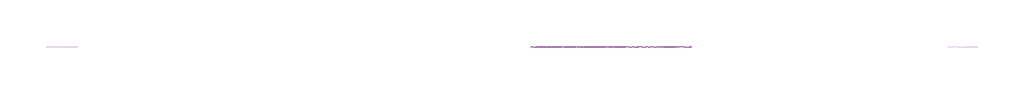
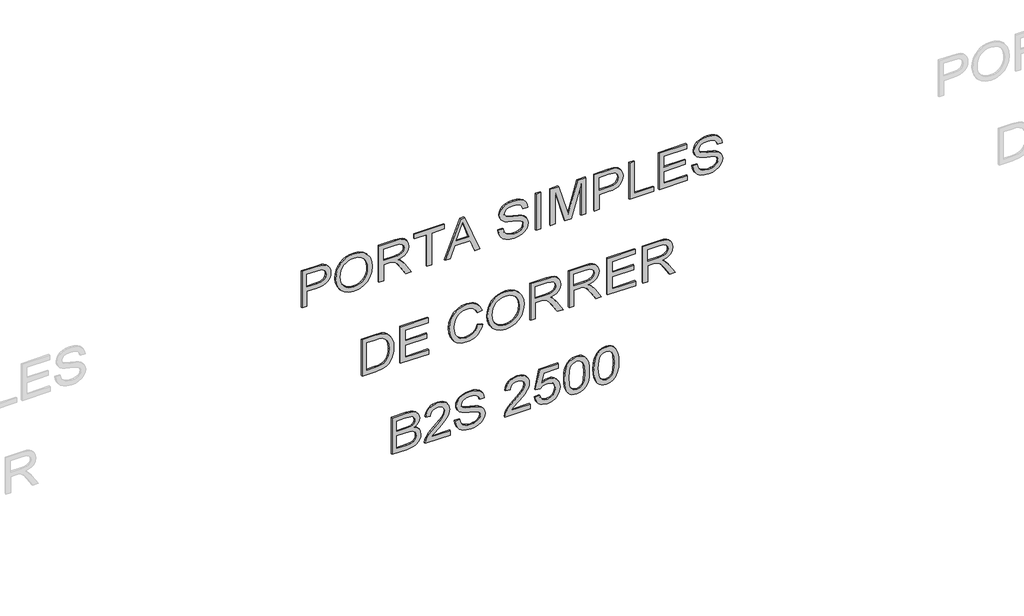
# One storey, part 12 of 13: 1 proxy.
"""IFC4 building model written with IfcOpenShell, lengths in millimetres."""

from ifc_helpers import new_model, si_unit, frame, origin, place, context, project, spatial, polyline, outline, extrude, element, save

model = new_model("IFC4")

# Units and contexts
model_context = context("Model", 3, world=origin())
ifc_project = project(units=[si_unit("LENGTHUNIT", "METRE", prefix="MILLI")], contexts=[model_context])

# Site, building, storey
site = spatial("IfcSite", under=ifc_project)
building = spatial("IfcBuilding", under=site)
storey = spatial("IfcBuildingStorey", under=building, Name="02 - Marelli - Planta Baixa - Portas", Elevation=-12000.0)

# Proxy
placement = place(None, origin())
element("IfcBuildingElementProxy", 1, Name="300mm Arial", ObjectType="300mm Arial", at=placement, inside=storey, context=model_context, shape_type="SweptSolid", body=[
    extrude(outline(polyline([(-5683.1381416, 62229.2612813), (-5683.1381416, 62266.9323976), (-5560.7070137, 62266.9323976), (-5560.7070137, 62343.525429), (-5559.0423476, 62372.7237631), (-5554.0483495, 62397.0430622), (-5545.7250194, 62416.4833264), (-5534.0723572, 62431.0445557), (-5520.0146665, 62441.6510534), (-5504.4762507, 62449.2271233), (-5487.4571099, 62453.7727652), (-5468.9572441, 62455.2879791), (-5447.5005267, 62453.043899), (-5427.8648252, 62446.3116585), (-5411.2181649, 62435.8914009), (-5398.7285712, 62422.5832698), (-5390.0005708, 62406.0561711), (-5384.6386908, 62385.9790112), (-5381.7692112, 62340.950255), (-5381.7692112, 62229.2612813), (-5683.1381416, 62229.2612813)]), holes=[polyline([(-5523.0358973, 62266.9323976), (-5419.4403275, 62266.9323976), (-5419.4403275, 62344.8498042), (-5422.0155015, 62382.5209205), (-5428.3430718, 62396.7487567), (-5439.085226, 62407.9415664), (-5453.3590475, 62415.1980387), (-5470.2816192, 62417.6168628), (-5492.556874, 62413.5149786), (-5509.2035343, 62401.2093258), (-5519.5778066, 62379.1364061), (-5523.0358973, 62345.732721), (-5523.0358973, 62266.9323976)])]), frame((0.0, 8778.3159498, 0.0), z_axis=(0.0, 1.0, 0.0), x_axis=(0.0, 0.0, 1.0)), (0.0, 0.0, 1.0), 10.0),
    extrude(outline(polyline([(-5536.426802, 62492.9590954), (-5574.971638, 62497.2633148), (-5611.4379408, 62510.1759728), (-5643.1309747, 62531.4395521), (-5667.3560041, 62560.7965354), (-5682.7242744, 62596.4443007), (-5687.8470312, 62636.5802264), (-5683.211718, 62674.3892984), (-5669.3057786, 62709.531226), (-5646.3867303, 62739.4952145), (-5614.7120905, 62761.7704693), (-5576.2500279, 62775.5936353), (-5532.9687112, 62780.2013573), (-5490.2576116, 62775.8235615), (-5452.3289779, 62762.6901743), (-5420.7095204, 62741.2058658), (-5396.9259494, 62711.7753062), (-5382.0267286, 62676.3298759), (-5377.0603217, 62636.8009556), (-5379.7044735, 62606.5104718), (-5387.636929, 62579.1354528), (-5400.8576882, 62554.6758987), (-5419.3667511, 62533.1318093), (-5442.5479153, 62515.556247), (-5469.7849785, 62503.0022739), (-5501.0779408, 62495.4698901), (-5536.426802, 62492.9590954)]), holes=[polyline([(-5536.794684, 62530.6302117), (-5506.2581791, 62532.5937819), (-5480.4259653, 62538.4844923), (-5459.2980424, 62548.3023431), (-5442.8744106, 62562.0473341), (-5430.5618601, 62578.5146519), (-5421.7671811, 62596.499483), (-5416.4903738, 62616.0018273), (-5414.731438, 62637.0216848), (-5418.3826668, 62666.1855299), (-5429.3363532, 62692.3143486), (-5446.9303096, 62713.9734011), (-5470.5023484, 62729.7279475), (-5499.3259028, 62739.3296676), (-5532.6744056, 62742.530241), (-5559.212493, 62740.6609406), (-5582.5408101, 62735.0530394), (-5602.6593567, 62725.7065375), (-5619.5681329, 62712.6214348), (-5632.9590375, 62696.6392613), (-5642.5239694, 62678.6015473), (-5648.2629285, 62658.5082925), (-5650.1759149, 62636.3594972), (-5648.2813226, 62614.5831823), (-5642.5975458, 62594.7244524), (-5633.1245844, 62576.7833073), (-5619.8624385, 62560.7597472), (-5603.3031502, 62547.5780754), (-5583.9387616, 62538.1625956), (-5561.7692729, 62532.5133077), (-5536.794684, 62530.6302117)])]), frame((0.0, 8778.3159498, 0.0), z_axis=(0.0, 1.0, 0.0), x_axis=(0.0, 0.0, 1.0)), (0.0, 0.0, 1.0), 10.0),
    extrude(outline(polyline([(-5683.1381416, 62831.9991422), (-5683.1381416, 62869.6702585), (-5551.2892346, 62869.6702585), (-5551.2892346, 62915.1404731), (-5552.6136098, 62936.9926636), (-5559.7873087, 62954.9085168), (-5579.3218426, 62974.8109327), (-5620.6717789, 63003.1378464), (-5683.1381416, 63042.354067), (-5683.1381416, 63086.1320245), (-5601.4683387, 63035.8793439), (-5562.6935764, 63005.3451383), (-5546.580345, 62983.9344062), (-5536.5923489, 63021.0445025), (-5528.5771199, 63035.4263892), (-5518.547737, 63047.0261684), (-5493.9364315, 63062.3392564), (-5464.2483545, 63067.4436191), (-5440.3820101, 63064.3626074), (-5418.6677753, 63055.1195723), (-5401.1565923, 63040.7169922), (-5389.8994033, 63022.1573455), (-5383.8017592, 62996.7642908), (-5381.7692112, 62961.8614865), (-5381.7692112, 62831.9991422), (-5683.1381416, 62831.9991422)]), holes=[polyline([(-5513.6181183, 62869.6702585), (-5419.4403275, 62869.6702585), (-5419.4403275, 62963.4801673), (-5422.6960832, 62993.2878059), (-5432.4633501, 63013.8432124), (-5447.2706004, 63025.7901802), (-5465.6463061, 63029.7725028), (-5478.9544373, 63027.6847725), (-5491.2141048, 63021.4215815), (-5501.3492537, 63011.1392797), (-5508.2838293, 62996.994217), (-5512.284546, 62978.2046441), (-5513.6181183, 62953.9888118), (-5513.6181183, 62869.6702585)])]), frame((0.0, 8778.3159498, 0.0), z_axis=(0.0, 1.0, 0.0), x_axis=(0.0, 0.0, 1.0)), (0.0, 0.0, 1.0), 10.0),
    extrude(outline(polyline([(-5683.1381416, 63208.7103053), (-5683.1381416, 63246.3814216), (-5419.4403275, 63246.3814216), (-5419.4403275, 63345.2681019), (-5381.7692112, 63345.2681019), (-5381.7692112, 63109.823625), (-5419.4403275, 63109.823625), (-5419.4403275, 63208.7103053), (-5683.1381416, 63208.7103053)])), frame((0.0, 8778.3159498, 0.0), z_axis=(0.0, 1.0, 0.0), x_axis=(0.0, 0.0, 1.0)), (0.0, 0.0, 1.0), 10.0),
    extrude(outline(polyline([(-5683.1381416, 63352.5521654), (-5683.1381416, 63392.3569973), (-5588.9603509, 63426.790752), (-5588.9603509, 63550.9141372), (-5683.1381416, 63585.4214683), (-5683.1381416, 63625.2263002), (-5381.7692112, 63504.9288878), (-5381.7692112, 63472.8495778), (-5683.1381416, 63352.5521654)]), holes=[polyline([(-5551.2892346, 63440.623115), (-5470.7230776, 63470.127251), (-5419.4403275, 63488.8892328), (-5477.1978007, 63510.0056593), (-5551.2892346, 63537.1553506), (-5551.2892346, 63440.623115)])]), frame((0.0, 8778.3159498, 0.0), z_axis=(0.0, 1.0, 0.0), x_axis=(0.0, 0.0, 1.0)), (0.0, 0.0, 1.0), 10.0),
    extrude(outline(polyline([(-5579.5425718, 63769.0681603), (-5609.9664128, 63773.5379266), (-5637.0793159, 63785.3285445), (-5659.3361766, 63803.6950531), (-5675.1918906, 63827.8924913), (-5684.683246, 63858.2703471), (-5687.8470312, 63895.1781083), (-5684.9131723, 63925.2432643), (-5676.1115955, 63952.1630293), (-5662.0217151, 63974.5486487), (-5643.2229452, 63991.011368), (-5621.3799517, 64001.1373199), (-5598.1574008, 64004.5126372), (-5575.4406876, 64001.5787783), (-5555.5566657, 63992.7772016), (-5538.6892762, 63977.7952073), (-5525.0224601, 63956.3200959), (-5516.2116863, 63931.1937556), (-5506.1133256, 63889.6598783), (-5495.4815359, 63849.4135881), (-5485.0704754, 63828.1500087), (-5473.4270103, 63819.155294), (-5458.9508538, 63816.1570557), (-5441.9730997, 63820.3876986), (-5427.6808842, 63833.0796275), (-5417.9687995, 63855.0237885), (-5414.731438, 63887.011128), (-5418.0055877, 63918.2627035), (-5427.828037, 63940.7954757), (-5444.051633, 63955.2164499), (-5466.5292229, 63962.1326314), (-5466.5292229, 63999.8037477), (-5441.5684295, 63995.5547106), (-5419.3667511, 63984.8677387), (-5401.0646218, 63967.9819551), (-5387.8024759, 63945.1364832), (-5379.7458602, 63917.3246044), (-5377.0603217, 63885.5396), (-5379.6262986, 63856.2010109), (-5387.3242293, 63829.6951131), (-5399.97937, 63807.6129964), (-5417.4169765, 63791.5457502), (-5437.9907771, 63781.7508921), (-5460.0544998, 63778.4859394), (-5479.7913688, 63781.1254927), (-5497.5048869, 63789.0441526), (-5512.8639602, 63802.3338897), (-5525.5374949, 63821.0866744), (-5534.596589, 63844.1252844), (-5544.1155357, 63880.1317347), (-5558.4997217, 63934.9829401), (-5566.308017, 63951.0593833), (-5575.6062345, 63960.587527), (-5586.5047386, 63965.2780224), (-5599.1138939, 63966.8415209), (-5612.0541431, 63964.7537906), (-5624.387387, 63958.4905996), (-5635.1295413, 63947.9599775), (-5643.2965216, 63933.0699538), (-5648.4560666, 63914.6942481), (-5650.1759149, 63893.7065803), (-5647.9042436, 63869.867827), (-5641.0892296, 63848.5306713), (-5630.5861986, 63831.0746706), (-5617.2504763, 63818.8793825), (-5600.4474662, 63811.0618901), (-5579.5425718, 63806.7392766), (-5579.5425718, 63769.0681603)])), frame((0.0, 8778.3159498, 0.0), z_axis=(0.0, 1.0, 0.0), x_axis=(0.0, 0.0, 1.0)), (0.0, 0.0, 1.0), 10.0),
    extrude(outline(polyline([(64103.3993175, 8778.3159498), (64065.7282012, 8778.3159498), (64065.7282012, 8788.3159498), (64103.3993175, 8788.3159498), (64103.3993175, 8778.3159498)])), frame((0.0, 0.0, -5683.1381416), z_axis=(0.0, 0.0, 1.0), x_axis=(1.0, 0.0, 0.0)), (0.0, 0.0, 1.0), 301.3689304),
    extrude(outline(polyline([(-5683.1381416, 64178.7415501), (-5683.1381416, 64216.4126664), (-5419.4403275, 64216.4126664), (-5683.1381416, 64292.1227811), (-5683.1381416, 64343.184802), (-5419.4403275, 64418.8949166), (-5683.1381416, 64418.8949166), (-5683.1381416, 64456.5660329), (-5381.7692112, 64456.5660329), (-5381.7692112, 64391.7452253), (-5590.5054553, 64331.1182725), (-5638.5508438, 64317.6537915), (-5594.1842752, 64305.2193801), (-5381.7692112, 64243.5623577), (-5381.7692112, 64178.7415501), (-5683.1381416, 64178.7415501)])), frame((0.0, 8778.3159498, 0.0), z_axis=(0.0, 1.0, 0.0), x_axis=(0.0, 0.0, 1.0)), (0.0, 0.0, 1.0), 10.0),
    extrude(outline(polyline([(-5683.1381416, 64522.4904864), (-5683.1381416, 64560.1616027), (-5560.7070137, 64560.1616027), (-5560.7070137, 64636.7546341), (-5559.0423476, 64665.9529682), (-5554.0483495, 64690.2722674), (-5545.7250194, 64709.7125316), (-5534.0723572, 64724.2737608), (-5520.0146665, 64734.8802586), (-5504.4762507, 64742.4563284), (-5487.4571099, 64747.0019703), (-5468.9572441, 64748.5171843), (-5447.5005267, 64746.2731041), (-5427.8648252, 64739.5408636), (-5411.2181649, 64729.1206061), (-5398.7285712, 64715.8124749), (-5390.0005708, 64699.2853763), (-5384.6386908, 64679.2082164), (-5381.7692112, 64634.1794602), (-5381.7692112, 64522.4904864), (-5683.1381416, 64522.4904864)]), holes=[polyline([(-5523.0358973, 64560.1616027), (-5419.4403275, 64560.1616027), (-5419.4403275, 64638.0790093), (-5422.0155015, 64675.7501256), (-5428.3430718, 64689.9779618), (-5439.085226, 64701.1707715), (-5453.3590475, 64708.4272438), (-5470.2816192, 64710.846068), (-5492.556874, 64706.7441837), (-5509.2035343, 64694.438531), (-5519.5778066, 64672.3656113), (-5523.0358973, 64638.9619261), (-5523.0358973, 64560.1616027)])]), frame((0.0, 8778.3159498, 0.0), z_axis=(0.0, 1.0, 0.0), x_axis=(0.0, 0.0, 1.0)), (0.0, 0.0, 1.0), 10.0),
    extrude(outline(polyline([(-5683.1381416, 64800.3149692), (-5683.1381416, 64988.6705507), (-5645.4670253, 64988.6705507), (-5645.4670253, 64837.9860855), (-5381.7692112, 64837.9860855), (-5381.7692112, 64800.3149692), (-5683.1381416, 64800.3149692)])), frame((0.0, 8778.3159498, 0.0), z_axis=(0.0, 1.0, 0.0), x_axis=(0.0, 0.0, 1.0)), (0.0, 0.0, 1.0), 10.0),
    extrude(outline(polyline([(-5683.1381416, 65031.0505566), (-5683.1381416, 65252.3683649), (-5645.4670253, 65252.3683649), (-5645.4670253, 65068.7216729), (-5546.580345, 65068.7216729), (-5546.580345, 65238.2416962), (-5508.9092287, 65238.2416962), (-5508.9092287, 65068.7216729), (-5419.4403275, 65068.7216729), (-5419.4403275, 65247.6594753), (-5381.7692112, 65247.6594753), (-5381.7692112, 65031.0505566), (-5683.1381416, 65031.0505566)])), frame((0.0, 8778.3159498, 0.0), z_axis=(0.0, 1.0, 0.0), x_axis=(0.0, 0.0, 1.0)), (0.0, 0.0, 1.0), 10.0),
    extrude(outline(polyline([(-5579.5425718, 65294.7483707), (-5609.9664128, 65299.2181369), (-5637.0793159, 65311.0087549), (-5659.3361766, 65329.3752635), (-5675.1918906, 65353.5727017), (-5684.683246, 65383.9505575), (-5687.8470312, 65420.8583187), (-5684.9131723, 65450.9234747), (-5676.1115955, 65477.8432397), (-5662.0217151, 65500.2288591), (-5643.2229452, 65516.6915784), (-5621.3799517, 65526.8175303), (-5598.1574008, 65530.1928476), (-5575.4406876, 65527.2589887), (-5555.5566657, 65518.457412), (-5538.6892762, 65503.4754177), (-5525.0224601, 65482.0003063), (-5516.2116863, 65456.873966), (-5506.1133256, 65415.3400887), (-5495.4815359, 65375.0937985), (-5485.0704754, 65353.8302191), (-5473.4270103, 65344.8355044), (-5458.9508538, 65341.8372661), (-5441.9730997, 65346.067909), (-5427.6808842, 65358.7598379), (-5417.9687995, 65380.7039989), (-5414.731438, 65412.6913384), (-5418.0055877, 65443.9429139), (-5427.828037, 65466.4756861), (-5444.051633, 65480.8966603), (-5466.5292229, 65487.8128418), (-5466.5292229, 65525.4839581), (-5441.5684295, 65521.234921), (-5419.3667511, 65510.5479491), (-5401.0646218, 65493.6621655), (-5387.8024759, 65470.8166936), (-5379.7458602, 65443.0048148), (-5377.0603217, 65411.2198104), (-5379.6262986, 65381.8812213), (-5387.3242293, 65355.3753235), (-5399.97937, 65333.2932068), (-5417.4169765, 65317.2259606), (-5437.9907771, 65307.4311025), (-5460.0544998, 65304.1661498), (-5479.7913688, 65306.8057031), (-5497.5048869, 65314.724363), (-5512.8639602, 65328.0141001), (-5525.5374949, 65346.7668848), (-5534.596589, 65369.8054948), (-5544.1155357, 65405.8119451), (-5558.4997217, 65460.6631505), (-5566.308017, 65476.7395937), (-5575.6062345, 65486.2677374), (-5586.5047386, 65490.9582328), (-5599.1138939, 65492.5217313), (-5612.0541431, 65490.434001), (-5624.387387, 65484.17081), (-5635.1295413, 65473.6401879), (-5643.2965216, 65458.7501642), (-5648.4560666, 65440.3744585), (-5650.1759149, 65419.3867907), (-5647.9042436, 65395.5480374), (-5641.0892296, 65374.2108817), (-5630.5861986, 65356.754881), (-5617.2504763, 65344.5595929), (-5600.4474662, 65336.7421005), (-5579.5425718, 65332.419487), (-5579.5425718, 65294.7483707)])), frame((0.0, 8778.3159498, 0.0), z_axis=(0.0, 1.0, 0.0), x_axis=(0.0, 0.0, 1.0)), (0.0, 0.0, 1.0), 10.0),
    extrude(outline(polyline([(-6414.9870487, 62700.1502351), (-6414.9870487, 62809.1168821), (-6409.8367008, 62857.5669409), (-6403.4815393, 62877.1106719), (-6394.7167508, 62893.5825882), (-6382.8985417, 62907.929986), (-6367.3831185, 62921.1001614), (-6347.729023, 62932.5412915), (-6323.4947965, 62941.7015532), (-6295.0299271, 62947.7164238), (-6262.6839027, 62949.7213807), (-6224.6081162, 62946.7599306), (-6191.0204901, 62937.8755804), (-6162.4728472, 62923.0315419), (-6139.5170107, 62902.1910269), (-6126.3284412, 62881.9207289), (-6117.9591258, 62857.8980347), (-6113.6181183, 62804.113687), (-6113.6181183, 62700.1502351), (-6414.9870487, 62700.1502351)]), holes=[polyline([(-6377.3159324, 62737.8213514), (-6151.2892346, 62737.8213514), (-6151.2892346, 62803.4514994), (-6152.7975508, 62835.1997156), (-6157.3224993, 62856.8679651), (-6169.9040635, 62878.1591355), (-6190.7261845, 62895.9738212), (-6221.0396609, 62908.0311536), (-6262.0952915, 62912.0502643), (-6293.0801526, 62909.9993222), (-6319.0802126, 62903.8464959), (-6340.187442, 62894.0148495), (-6356.4938115, 62880.9274476), (-6365.3045853, 62868.7505535), (-6371.8712789, 62852.9684159), (-6375.954769, 62832.0543245), (-6377.3159324, 62804.481569), (-6377.3159324, 62737.8213514)])]), frame((0.0, 8778.3159498, 0.0), z_axis=(0.0, 1.0, 0.0), x_axis=(0.0, 0.0, 1.0)), (0.0, 0.0, 1.0), 10.0),
    extrude(outline(polyline([(-6414.9870487, 63001.5191656), (-6414.9870487, 63222.8369739), (-6377.3159324, 63222.8369739), (-6377.3159324, 63039.1902819), (-6278.4292521, 63039.1902819), (-6278.4292521, 63208.7103053), (-6240.7581358, 63208.7103053), (-6240.7581358, 63039.1902819), (-6151.2892346, 63039.1902819), (-6151.2892346, 63218.1280843), (-6113.6181183, 63218.1280843), (-6113.6181183, 63001.5191656), (-6414.9870487, 63001.5191656)])), frame((0.0, 8778.3159498, 0.0), z_axis=(0.0, 1.0, 0.0), x_axis=(0.0, 0.0, 1.0)), (0.0, 0.0, 1.0), 10.0),
    extrude(outline(polyline([(-6307.8598117, 63608.965916), (-6340.1230627, 63596.7798249), (-6363.3364166, 63576.9969706), (-6377.3527206, 63550.7945755), (-6382.024822, 63519.349862), (-6378.5943223, 63492.3749147), (-6368.3028235, 63467.3681361), (-6351.0767491, 63446.5092269), (-6326.8425227, 63431.9778881), (-6296.7497755, 63423.4522229), (-6261.9481387, 63420.6103345), (-6233.5292546, 63423.0107645), (-6205.9564991, 63430.2120546), (-6181.5659228, 63443.3362447), (-6162.6935764, 63463.5053751), (-6150.6086529, 63490.0848493), (-6146.580345, 63522.4400707), (-6150.2131797, 63550.509467), (-6161.1116838, 63573.3549389), (-6179.9564391, 63591.1972156), (-6207.428027, 63604.2570265), (-6198.4517064, 63641.9281428), (-6160.6334373, 63625.2906795), (-6145.3111522, 63613.4885653), (-6132.3801, 63599.3641959), (-6122.1115938, 63583.1842859), (-6114.7769466, 63565.2155497), (-6108.9092287, 63523.9115987), (-6113.4433743, 63486.0565414), (-6127.0458111, 63451.5124221), (-6149.3854453, 63422.3853651), (-6180.131183, 63400.7814949), (-6218.0782108, 63387.3997874), (-6262.0217151, 63382.9392182), (-6303.6843511, 63386.8847526), (-6342.5878721, 63398.7213558), (-6375.6788575, 63418.1087369), (-6399.9038869, 63444.7066052), (-6414.7479254, 63479.4070744), (-6419.6959383, 63523.1022583), (-6418.0611626, 63545.5246659), (-6413.1568358, 63566.1444518), (-6404.9829577, 63584.9616158), (-6393.5395284, 63601.9761581), (-6378.9828977, 63616.8523863), (-6361.4694155, 63629.254608), (-6340.9990817, 63639.1828234), (-6317.5718964, 63646.6370323), (-6307.8598117, 63608.965916)])), frame((0.0, 8778.3159498, 0.0), z_axis=(0.0, 1.0, 0.0), x_axis=(0.0, 0.0, 1.0)), (0.0, 0.0, 1.0), 10.0),
    extrude(outline(polyline([(-6268.275709, 63684.3081486), (-6306.8205451, 63688.612368), (-6343.2868479, 63701.525026), (-6374.9798817, 63722.7886053), (-6399.2049111, 63752.1455885), (-6414.5731815, 63787.7933539), (-6419.6959383, 63827.9292795), (-6415.0606251, 63865.7383516), (-6401.1546857, 63900.8802792), (-6378.2356374, 63930.8442677), (-6346.5609976, 63953.1195225), (-6308.098935, 63966.9426885), (-6264.8176183, 63971.5504105), (-6222.1065186, 63967.1726147), (-6184.1778849, 63954.0392275), (-6152.5584275, 63932.554919), (-6128.7748565, 63903.1243594), (-6113.8756357, 63867.6789291), (-6108.9092287, 63828.1500087), (-6111.5533806, 63797.859525), (-6119.4858361, 63770.484506), (-6132.7065953, 63746.0249518), (-6151.2156582, 63724.4808625), (-6174.3968224, 63706.9053002), (-6201.6338856, 63694.3513271), (-6232.9268478, 63686.8189432), (-6268.275709, 63684.3081486)]), holes=[polyline([(-6268.643591, 63721.9792649), (-6238.1070862, 63723.9428351), (-6212.2748723, 63729.8335455), (-6191.1469495, 63739.6513963), (-6174.7233177, 63753.3963873), (-6162.4107671, 63769.8637051), (-6153.6160882, 63787.8485362), (-6148.3392808, 63807.3508804), (-6146.580345, 63828.3707379), (-6150.2315738, 63857.5345831), (-6161.1852602, 63883.6634018), (-6178.7792167, 63905.3224543), (-6202.3512555, 63921.0770007), (-6231.1748098, 63930.6787208), (-6264.5233127, 63933.8792942), (-6291.0614001, 63932.0099938), (-6314.3897171, 63926.4020926), (-6334.5082637, 63917.0555907), (-6351.41704, 63903.9704879), (-6364.8079446, 63887.9883145), (-6374.3728765, 63869.9506004), (-6380.1118356, 63849.8573457), (-6382.024822, 63827.7085503), (-6380.1302297, 63805.9322355), (-6374.4464529, 63786.0735055), (-6364.9734915, 63768.1323605), (-6351.7113455, 63752.1088003), (-6335.1520572, 63738.9271286), (-6315.7876687, 63729.5116488), (-6293.61818, 63723.8623609), (-6268.643591, 63721.9792649)])]), frame((0.0, 8778.3159498, 0.0), z_axis=(0.0, 1.0, 0.0), x_axis=(0.0, 0.0, 1.0)), (0.0, 0.0, 1.0), 10.0),
    extrude(outline(polyline([(-6414.9870487, 64023.3481954), (-6414.9870487, 64061.0193117), (-6283.1381416, 64061.0193117), (-6283.1381416, 64106.4895263), (-6284.4625168, 64128.3417168), (-6291.6362157, 64146.25757), (-6311.1707497, 64166.1599859), (-6352.5206859, 64194.4868995), (-6414.9870487, 64233.7031202), (-6414.9870487, 64277.4810776), (-6333.3172458, 64227.2283971), (-6294.5424835, 64196.6941915), (-6278.4292521, 64175.2834594), (-6268.4412559, 64212.3935556), (-6260.426027, 64226.7754424), (-6250.3966441, 64238.3752216), (-6225.7853386, 64253.6883096), (-6196.0972616, 64258.7926723), (-6172.2309172, 64255.7116606), (-6150.5166824, 64246.4686255), (-6133.0054994, 64232.0660453), (-6121.7483104, 64213.5063987), (-6115.6506663, 64188.113344), (-6113.6181183, 64153.2105397), (-6113.6181183, 64023.3481954), (-6414.9870487, 64023.3481954)]), holes=[polyline([(-6245.4670253, 64061.0193117), (-6151.2892346, 64061.0193117), (-6151.2892346, 64154.8292205), (-6154.5449902, 64184.6368591), (-6164.3122572, 64205.1922656), (-6179.1195075, 64217.1392334), (-6197.4952132, 64221.121556), (-6210.8033443, 64219.0338257), (-6223.0630118, 64212.7706347), (-6233.1981608, 64202.4883329), (-6240.1327364, 64188.3432702), (-6244.1334531, 64169.5536973), (-6245.4670253, 64145.337865), (-6245.4670253, 64061.0193117)])]), frame((0.0, 8778.3159498, 0.0), z_axis=(0.0, 1.0, 0.0), x_axis=(0.0, 0.0, 1.0)), (0.0, 0.0, 1.0), 10.0),
    extrude(outline(polyline([(-6414.9870487, 64324.7171258), (-6414.9870487, 64362.3882421), (-6283.1381416, 64362.3882421), (-6283.1381416, 64407.8584567), (-6284.4625168, 64429.7106472), (-6291.6362157, 64447.6265004), (-6311.1707497, 64467.5289164), (-6352.5206859, 64495.85583), (-6414.9870487, 64535.0720507), (-6414.9870487, 64578.8500081), (-6333.3172458, 64528.5973276), (-6294.5424835, 64498.063122), (-6278.4292521, 64476.6523898), (-6268.4412559, 64513.7624861), (-6260.426027, 64528.1443728), (-6250.3966441, 64539.744152), (-6225.7853386, 64555.0572401), (-6196.0972616, 64560.1616027), (-6172.2309172, 64557.080591), (-6150.5166824, 64547.8375559), (-6133.0054994, 64533.4349758), (-6121.7483104, 64514.8753291), (-6115.6506663, 64489.4822744), (-6113.6181183, 64454.5794701), (-6113.6181183, 64324.7171258), (-6414.9870487, 64324.7171258)]), holes=[polyline([(-6245.4670253, 64362.3882421), (-6151.2892346, 64362.3882421), (-6151.2892346, 64456.1981509), (-6154.5449902, 64486.0057896), (-6164.3122572, 64506.561196), (-6179.1195075, 64518.5081638), (-6197.4952132, 64522.4904864), (-6210.8033443, 64520.4027561), (-6223.0630118, 64514.1395651), (-6233.1981608, 64503.8572634), (-6240.1327364, 64489.7122007), (-6244.1334531, 64470.9226278), (-6245.4670253, 64446.7067954), (-6245.4670253, 64362.3882421)])]), frame((0.0, 8778.3159498, 0.0), z_axis=(0.0, 1.0, 0.0), x_axis=(0.0, 0.0, 1.0)), (0.0, 0.0, 1.0), 10.0),
    extrude(outline(polyline([(-6414.9870487, 64626.0860563), (-6414.9870487, 64847.4038646), (-6377.3159324, 64847.4038646), (-6377.3159324, 64663.7571726), (-6278.4292521, 64663.7571726), (-6278.4292521, 64833.277196), (-6240.7581358, 64833.277196), (-6240.7581358, 64663.7571726), (-6151.2892346, 64663.7571726), (-6151.2892346, 64842.694975), (-6113.6181183, 64842.694975), (-6113.6181183, 64626.0860563), (-6414.9870487, 64626.0860563)])), frame((0.0, 8778.3159498, 0.0), z_axis=(0.0, 1.0, 0.0), x_axis=(0.0, 0.0, 1.0)), (0.0, 0.0, 1.0), 10.0),
    extrude(outline(polyline([(-6414.9870487, 64903.910539), (-6414.9870487, 64941.5816553), (-6283.1381416, 64941.5816553), (-6283.1381416, 64987.0518699), (-6284.4625168, 65008.9040605), (-6291.6362157, 65026.8199136), (-6311.1707497, 65046.7223296), (-6352.5206859, 65075.0492432), (-6414.9870487, 65114.2654639), (-6414.9870487, 65158.0434213), (-6333.3172458, 65107.7907408), (-6294.5424835, 65077.2565352), (-6278.4292521, 65055.845803), (-6268.4412559, 65092.9558993), (-6260.426027, 65107.3377861), (-6250.3966441, 65118.9375652), (-6225.7853386, 65134.2506533), (-6196.0972616, 65139.3550159), (-6172.2309172, 65136.2740042), (-6150.5166824, 65127.0309691), (-6133.0054994, 65112.628389), (-6121.7483104, 65094.0687423), (-6115.6506663, 65068.6756876), (-6113.6181183, 65033.7728833), (-6113.6181183, 64903.910539), (-6414.9870487, 64903.910539)]), holes=[polyline([(-6245.4670253, 64941.5816553), (-6151.2892346, 64941.5816553), (-6151.2892346, 65035.3915641), (-6154.5449902, 65065.1992028), (-6164.3122572, 65085.7546092), (-6179.1195075, 65097.701577), (-6197.4952132, 65101.6838996), (-6210.8033443, 65099.5961693), (-6223.0630118, 65093.3329783), (-6233.1981608, 65083.0506766), (-6240.1327364, 65068.9056139), (-6244.1334531, 65050.116041), (-6245.4670253, 65025.9002086), (-6245.4670253, 64941.5816553)])]), frame((0.0, 8778.3159498, 0.0), z_axis=(0.0, 1.0, 0.0), x_axis=(0.0, 0.0, 1.0)), (0.0, 0.0, 1.0), 10.0),
    extrude(outline(polyline([(-7146.8359558, 62935.594712), (-7146.8359558, 63049.7117069), (-7141.6488197, 63098.0146129), (-7135.2292788, 63116.0500277), (-7126.3449287, 63130.7928987), (-7114.0760641, 63142.831837), (-7097.5029802, 63152.7554538), (-7078.0144315, 63159.4049209), (-7056.9991726, 63161.6214099), (-7031.7808618, 63158.3748513), (-7010.1310064, 63148.6351754), (-6993.1716464, 63132.8622349), (-6982.024822, 63111.5158821), (-6970.2801893, 63129.38575), (-6955.3533773, 63142.0868759), (-6938.2928498, 63149.6744421), (-6920.1470704, 63152.2036308), (-6900.4285954, 63149.1961955), (-6881.5930373, 63140.1738896), (-6865.5809734, 63125.8448858), (-6854.3329814, 63106.9173572), (-6847.6835144, 63082.2232783), (-6845.4670253, 63050.5946237), (-6845.4670253, 62935.594712), (-7146.8359558, 62935.594712)]), holes=[polyline([(-6967.8981533, 62973.2658283), (-6883.1381416, 62973.2658283), (-6883.1381416, 63036.8358371), (-6887.074479, 63085.2491077), (-6892.6754824, 63097.7387014), (-6901.6058178, 63106.9541454), (-6913.0469479, 63112.6379222), (-6926.1803351, 63114.5325145), (-6939.7091955, 63112.4999665), (-6950.7180642, 63106.4023224), (-6959.0781825, 63096.2947646), (-6964.6607918, 63082.2324753), (-6967.8981533, 63042.0597614), (-6967.8981533, 62973.2658283)]), polyline([(-7109.1648395, 62973.2658283), (-7005.5692696, 62973.2658283), (-7005.5692696, 63046.8422274), (-7006.8292655, 63073.6700219), (-7010.609253, 63093.3792998), (-7017.4978433, 63107.2944362), (-7028.0836477, 63116.7398065), (-7041.6217052, 63122.1476718), (-7057.3670546, 63123.9502936), (-7070.9235061, 63122.4143862), (-7082.7509122, 63117.8066642), (-7099.489543, 63102.1348913), (-7107.6933115, 63078.480079), (-7109.1648395, 63050.5210473), (-7109.1648395, 62973.2658283)])]), frame((0.0, 8778.3159498, 0.0), z_axis=(0.0, 1.0, 0.0), x_axis=(0.0, 0.0, 1.0)), (0.0, 0.0, 1.0), 10.0),
    extrude(outline(polyline([(-7109.1648395, 63392.3569973), (-7109.1648395, 63244.3948588), (-7089.9981875, 63261.391007), (-7053.761811, 63304.727506), (-7024.7451186, 63337.4230183), (-7002.1479671, 63358.6957947), (-6983.2204384, 63372.0407141), (-6965.2126148, 63380.9526554), (-6947.5082938, 63385.9742446), (-6929.491273, 63387.6481077), (-6912.338775, 63386.0961055), (-6896.6394109, 63381.440099), (-6882.3931806, 63373.6800882), (-6869.6000842, 63362.816073), (-6859.041871, 63349.2895119), (-6851.5002901, 63333.5418633), (-6846.9753415, 63315.5731271), (-6845.4670253, 63295.3833033), (-6850.8932848, 63257.5006549), (-6857.6761091, 63241.7668018), (-6867.1720631, 63228.1712628), (-6879.2523881, 63216.9715553), (-6893.7883254, 63208.4251967), (-6930.227037, 63199.2925262), (-6934.9359266, 63236.9636425), (-6913.2860712, 63241.0379356), (-6896.8969283, 63252.8193565), (-6886.5778383, 63271.0755005), (-6883.1381416, 63294.5739629), (-6886.6606118, 63316.9503853), (-6897.2280221, 63334.6363122), (-6912.9089921, 63346.1418216), (-6931.7721414, 63349.9769914), (-6952.8149915, 63345.9118954), (-6974.4464529, 63333.7166072), (-7001.0995034, 63309.3260309), (-7037.2071212, 63268.6750705), (-7060.2641253, 63241.1758913), (-7080.8747141, 63221.5125987), (-7100.5655978, 63207.919359), (-7120.8634869, 63198.6303386), (-7146.8359558, 63194.5836366), (-7146.8359558, 63392.3569973), (-7109.1648395, 63392.3569973)])), frame((0.0, 8778.3159498, 0.0), z_axis=(0.0, 1.0, 0.0), x_axis=(0.0, 0.0, 1.0)), (0.0, 0.0, 1.0), 10.0),
    extrude(outline(polyline([(-7043.2403859, 63430.0281136), (-7073.6642269, 63434.4978798), (-7100.77713, 63446.2884977), (-7123.0339907, 63464.6550064), (-7138.8897047, 63488.8524446), (-7148.3810602, 63519.2303003), (-7151.5448453, 63556.1380615), (-7148.6109864, 63586.2032176), (-7139.8094097, 63613.1229826), (-7125.7195293, 63635.508602), (-7106.9207593, 63651.9713212), (-7085.0777658, 63662.0972732), (-7061.8552149, 63665.4725905), (-7039.1385017, 63662.5387316), (-7019.2544799, 63653.7371548), (-7002.3870904, 63638.7551606), (-6988.7202743, 63617.2800491), (-6979.9095005, 63592.1537088), (-6969.8111397, 63550.6198316), (-6959.1793501, 63510.3735413), (-6948.7682896, 63489.109962), (-6937.1248244, 63480.1152472), (-6922.6486679, 63477.1170089), (-6905.6709139, 63481.3476519), (-6891.3786983, 63494.0395807), (-6881.6666137, 63515.9837417), (-6878.4292521, 63547.9710812), (-6881.7034019, 63579.2226567), (-6891.5258511, 63601.7554289), (-6907.7494471, 63616.1764031), (-6930.227037, 63623.0925846), (-6930.227037, 63660.7637009), (-6905.2662437, 63656.5146639), (-6883.0645652, 63645.8276919), (-6864.762436, 63628.9419083), (-6851.5002901, 63606.0964364), (-6843.4436744, 63578.2845576), (-6840.7581358, 63546.4995532), (-6843.3241127, 63517.1609641), (-6851.0220435, 63490.6550664), (-6863.6771841, 63468.5729496), (-6881.1147907, 63452.5057035), (-6901.6885913, 63442.7108453), (-6923.7523139, 63439.4458926), (-6943.489183, 63442.0854459), (-6961.202701, 63450.0041059), (-6976.5617743, 63463.293843), (-6989.2353091, 63482.0466277), (-6998.2944032, 63505.0852376), (-7007.8133498, 63541.0916879), (-7022.1975358, 63595.9428934), (-7030.0058312, 63612.0193366), (-7039.3040486, 63621.5474802), (-7050.2025527, 63626.2379757), (-7062.8117081, 63627.8014742), (-7075.7519573, 63625.7137438), (-7088.0852012, 63619.4505529), (-7098.8273554, 63608.9199308), (-7106.9943357, 63594.029907), (-7112.1538807, 63575.6542013), (-7113.873729, 63554.6665335), (-7111.6020577, 63530.8277802), (-7104.7870437, 63509.4906245), (-7094.2840128, 63492.0346238), (-7080.9482905, 63479.8393357), (-7064.1452803, 63472.0218433), (-7043.2403859, 63467.6992299), (-7043.2403859, 63430.0281136)])), frame((0.0, 8778.3159498, 0.0), z_axis=(0.0, 1.0, 0.0), x_axis=(0.0, 0.0, 1.0)), (0.0, 0.0, 1.0), 10.0),
    extrude(outline(polyline([(-7109.1648395, 64018.6393058), (-7109.1648395, 63870.6771674), (-7089.9981875, 63887.6733156), (-7053.761811, 63931.0098146), (-7024.7451186, 63963.7053269), (-7002.1479671, 63984.9781033), (-6983.2204384, 63998.3230227), (-6965.2126148, 64007.234964), (-6947.5082938, 64012.2565532), (-6929.491273, 64013.9304163), (-6912.338775, 64012.3784141), (-6896.6394109, 64007.7224076), (-6882.3931806, 63999.9623968), (-6869.6000842, 63989.0983816), (-6859.041871, 63975.5718205), (-6851.5002901, 63959.8241719), (-6846.9753415, 63941.8554357), (-6845.4670253, 63921.6656119), (-6850.8932848, 63883.7829635), (-6857.6761091, 63868.0491104), (-6867.1720631, 63854.4535714), (-6879.2523881, 63843.2538639), (-6893.7883254, 63834.7075053), (-6930.227037, 63825.5748348), (-6934.9359266, 63863.2459511), (-6913.2860712, 63867.3202442), (-6896.8969283, 63879.1016651), (-6886.5778383, 63897.3578091), (-6883.1381416, 63920.8562715), (-6886.6606118, 63943.2326939), (-6897.2280221, 63960.9186208), (-6912.9089921, 63972.4241302), (-6931.7721414, 63976.2593), (-6952.8149915, 63972.1942039), (-6974.4464529, 63959.9989158), (-7001.0995034, 63935.6083395), (-7037.2071212, 63894.9573791), (-7060.2641253, 63867.4581999), (-7080.8747141, 63847.7949073), (-7100.5655978, 63834.2016676), (-7120.8634869, 63824.9126472), (-7146.8359558, 63820.8659452), (-7146.8359558, 64018.6393058), (-7109.1648395, 64018.6393058)])), frame((0.0, 8778.3159498, 0.0), z_axis=(0.0, 1.0, 0.0), x_axis=(0.0, 0.0, 1.0)), (0.0, 0.0, 1.0), 10.0),
    extrude(outline(polyline([(-7066.7848336, 64056.3104221), (-7101.33815, 64065.498275), (-7115.7798176, 64074.223976), (-7128.3314914, 64085.7041936), (-7138.4873338, 64099.5020676), (-7145.7415069, 64115.1807384), (-7151.5448453, 64152.1804701), (-7149.2869696, 64175.6697355), (-7142.5133423, 64196.5470387), (-7131.2239636, 64214.8123798), (-7115.4188334, 64230.4657587), (-7099.9861837, 64240.7986442), (-7083.1923706, 64248.1792767), (-7045.5212543, 64254.0837828), (-7025.2601534, 64252.4444086), (-7006.930433, 64247.5262862), (-6990.5320931, 64239.3294155), (-6976.0651336, 64227.8537965), (-6964.2515231, 64213.9915431), (-6955.8132298, 64198.634769), (-6950.7502538, 64181.7834744), (-6949.0625952, 64163.4376591), (-6954.5072487, 64135.2395042), (-6970.8412093, 64108.3289363), (-6887.8470312, 64124.4421677), (-6887.8470312, 64239.9571141), (-6850.1759149, 64239.9571141), (-6850.1759149, 64093.9815385), (-7005.5692696, 64061.0193117), (-7010.2781592, 64098.690428), (-6993.282011, 64119.8436427), (-6988.3707864, 64134.641696), (-6986.7337115, 64152.9162341), (-6990.8355957, 64180.8108864), (-7003.1412485, 64200.6305289), (-7022.5286296, 64212.467132), (-7047.8756991, 64216.4126664), (-7074.7954641, 64212.2004176), (-7095.8107231, 64199.5636711), (-7109.3579775, 64179.3301613), (-7113.873729, 64152.3276229), (-7110.6271704, 64130.1259445), (-7100.8874946, 64112.9642494), (-7084.6914898, 64100.89772), (-7062.0759441, 64093.9815385), (-7066.7848336, 64056.3104221)])), frame((0.0, 8778.3159498, 0.0), z_axis=(0.0, 1.0, 0.0), x_axis=(0.0, 0.0, 1.0)), (0.0, 0.0, 1.0), 10.0),
    extrude(outline(polyline([(-6998.5795117, 64287.0460095), (-7038.0210601, 64288.9222077), (-7071.8799993, 64294.5508022), (-7100.1563291, 64303.9317931), (-7122.8500497, 64317.0651803), (-7135.4040228, 64330.7503905), (-7144.3711464, 64346.7900455), (-7149.7514206, 64365.1841453), (-7151.5448453, 64385.9326898), (-7147.4153699, 64416.384122), (-7135.0269437, 64441.0782009), (-7114.241611, 64460.1804735), (-7084.921416, 64473.8564867), (-7046.5421269, 64482.0786493), (-6998.5795117, 64484.8193701), (-6958.61833, 64483.1087188), (-6927.7622277, 64477.976765), (-6903.4636219, 64470.1408785), (-6883.1749298, 64460.3184292), (-6867.0341073, 64447.3138007), (-6855.17911, 64429.9313764), (-6847.8950465, 64409.1460437), (-6845.4670253, 64385.9326898), (-6849.5689096, 64355.6468046), (-6861.8745623, 64331.0079079), (-6882.5771216, 64311.8780442), (-6911.8697255, 64298.1192576), (-6950.3409851, 64289.8143215), (-6998.5795117, 64287.0460095)]), holes=[polyline([(-6998.5059353, 64324.7171258), (-6940.0126981, 64329.2788626), (-6918.9330598, 64334.9810335), (-6903.298075, 64342.9640728), (-6888.178125, 64361.9099955), (-6883.1381416, 64385.4912314), (-6888.8587067, 64410.3968425), (-6906.0204017, 64430.0785292), (-6920.3815951, 64437.5465337), (-6940.5829152, 64442.8808227), (-6998.5059353, 64447.1482538), (-7057.6705572, 64442.7336699), (-7077.9339574, 64437.21544), (-7091.9847503, 64429.4899181), (-7108.4014843, 64409.7714431), (-7113.873729, 64385.9326898), (-7108.4198784, 64362.0939365), (-7092.0583267, 64342.3754616), (-7078.0305264, 64334.6499397), (-7057.7625277, 64329.1317098), (-6998.5059353, 64324.7171258)])]), frame((0.0, 8778.3159498, 0.0), z_axis=(0.0, 1.0, 0.0), x_axis=(0.0, 0.0, 1.0)), (0.0, 0.0, 1.0), 10.0),
    extrude(outline(polyline([(-6998.5795117, 64517.7815969), (-7038.0210601, 64519.6577951), (-7071.8799993, 64525.2863896), (-7100.1563291, 64534.6673805), (-7122.8500497, 64547.8007677), (-7135.4040228, 64561.4859779), (-7144.3711464, 64577.5256329), (-7149.7514206, 64595.9197327), (-7151.5448453, 64616.6682772), (-7147.4153699, 64647.1197093), (-7135.0269437, 64671.8137883), (-7114.241611, 64690.9160609), (-7084.921416, 64704.592074), (-7046.5421269, 64712.8142366), (-6998.5795117, 64715.5549575), (-6958.61833, 64713.8443062), (-6927.7622277, 64708.7123524), (-6903.4636219, 64700.8764659), (-6883.1749298, 64691.0540166), (-6867.0341073, 64678.0493881), (-6855.17911, 64660.6669638), (-6847.8950465, 64639.8816311), (-6845.4670253, 64616.6682772), (-6849.5689096, 64586.3823919), (-6861.8745623, 64561.7434953), (-6882.5771216, 64542.6136316), (-6911.8697255, 64528.8548449), (-6950.3409851, 64520.5499089), (-6998.5795117, 64517.7815969)]), holes=[polyline([(-6998.5059353, 64555.4527132), (-6940.0126981, 64560.0144499), (-6918.9330598, 64565.7166209), (-6903.298075, 64573.6996602), (-6888.178125, 64592.6455829), (-6883.1381416, 64616.2268188), (-6888.8587067, 64641.1324299), (-6906.0204017, 64660.8141166), (-6920.3815951, 64668.2821211), (-6940.5829152, 64673.6164101), (-6998.5059353, 64677.8838412), (-7057.6705572, 64673.4692573), (-7077.9339574, 64667.9510273), (-7091.9847503, 64660.2255054), (-7108.4014843, 64640.5070305), (-7113.873729, 64616.6682772), (-7108.4198784, 64592.8295239), (-7092.0583267, 64573.111049), (-7078.0305264, 64565.3855271), (-7057.7625277, 64559.8672971), (-6998.5059353, 64555.4527132)])]), frame((0.0, 8778.3159498, 0.0), z_axis=(0.0, 1.0, 0.0), x_axis=(0.0, 0.0, 1.0)), (0.0, 0.0, 1.0), 10.0),
])

save(model, "model.ifc")
